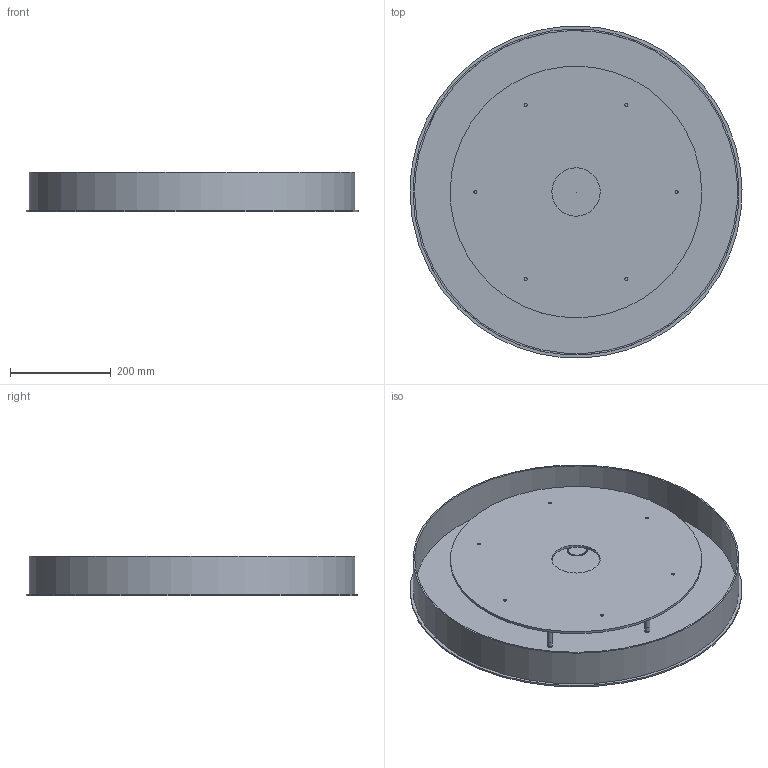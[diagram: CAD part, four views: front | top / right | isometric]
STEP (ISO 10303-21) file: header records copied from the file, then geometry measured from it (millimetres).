
FILE_DESCRIPTION(/* description */ (''),/* implementation_level */ '2;1');
FILE_NAME(/* name */ 'SkLO_Round_Canopy_26_MCR26_3D',/* time_stamp */ '2024-10-18T23:38:43+02:00',/* author */ (''),/* organization */ (''),/* preprocessor_version */ 'ST-DEVELOPER v16.5',/* originating_system */ 'Rhino 7.34',/* authorisation */ '');
FILE_SCHEMA (('CONFIG_CONTROL_DESIGN'));
Length unit declared in the file: millimetre
Products named in the file (1): Document
Bounding box: 659.97 x 659.64 x 78.26 mm (x, y, z)
Volume: 2449825.9 mm3; surface area: 1416494.8 mm2
Topology: 12 solids, 18 shells, 209 faces, 493 edges, 327 vertices
Faces by surface type: plane 82, cylinder 78, bspline 49
Full cylindrical faces by diameter (mm): 2.4 x9, 3 x12, 3.5 x4, 5.249 x6, 6 x12, 6.2 x12, 10 x6, 96 x1, 500 x1, 642 x1, 648 x1, 660 x1
Entity records: 15123 total; most frequent: CARTESIAN_POINT 11892, ORIENTED_EDGE 926, EDGE_CURVE 466, VERTEX_POINT 299, EDGE_LOOP 265, ADVANCED_FACE 209, FACE_OUTER_BOUND 209, B_SPLINE_CURVE_WITH_KNOTS 184
